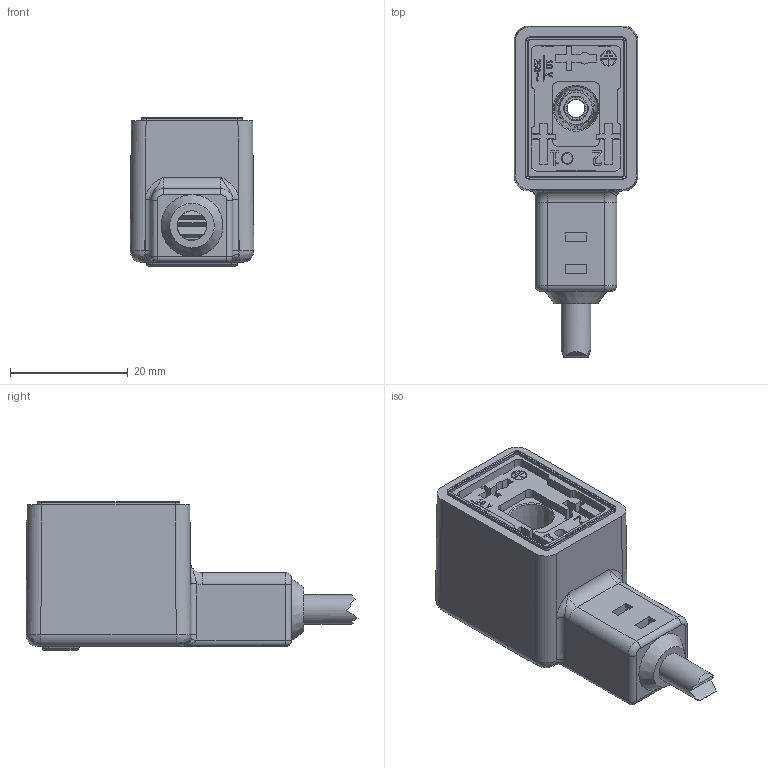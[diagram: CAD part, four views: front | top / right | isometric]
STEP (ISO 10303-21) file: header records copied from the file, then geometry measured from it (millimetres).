
FILE_DESCRIPTION((''),'2;1');
FILE_NAME('C:\Users\enrico\Desktop\Ale\File 3d catalogo\Connettori per attuatori Serie DIN\DIN B IND.stp','2020-07-17T14:15:25',('Tecnico2'),(''),'Autodesk Inventor 2012','Autodesk Inventor 2012','');
FILE_SCHEMA(('AUTOMOTIVE_DESIGN { 1 0 10303 214 1 1 1 1 }'));
Length unit declared in the file: millimetre
Products named in the file (4): 48218_Din terra H12  forma B IND; Corpo pvc forma B; connettore forma B IND; 2701003BI targhettina ciabatte
Assembly tree (3 placements, depth 2):
  48218_Din terra H12  forma B IND
    Corpo pvc forma B
    connettore forma B IND
    2701003BI targhettina ciabatte
Bounding box: 20.96 x 56.28 x 25.1 mm (x, y, z)
Volume: 15736.4 mm3; surface area: 10530.2 mm2
Topology: 3 solids, 3 shells, 870 faces, 2374 edges, 1534 vertices
Faces by surface type: plane 552, cylinder 145, bspline 100, torus 39, cone 32, sphere 2
Full cylindrical faces by diameter (mm): 1.4 x1, 2.41 x2, 2.7 x2, 3 x1, 3.261 x1, 4 x1, 4.261 x1, 5 x1
Entity records: 29847 total; most frequent: CARTESIAN_POINT 8425, ORIENTED_EDGE 4664, DIRECTION 4027, EDGE_CURVE 2332, VECTOR 1613, LINE 1613, VERTEX_POINT 1526, AXIS2_PLACEMENT_3D 1207
